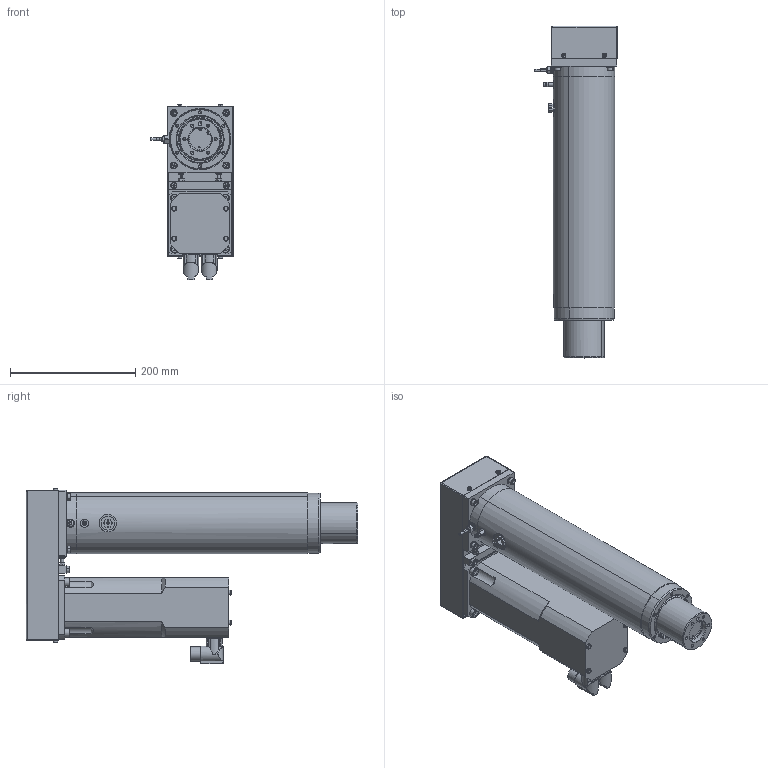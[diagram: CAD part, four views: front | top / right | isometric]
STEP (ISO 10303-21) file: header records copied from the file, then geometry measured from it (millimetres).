
FILE_DESCRIPTION (( 'STEP AP203' ), '1' );
FILE_NAME ('LN5P0100-020-030NG.STEP', '2018-01-29T08:49:04', ( '' ), ( '' ), 'SwSTEP 2.0', 'SolidWorks 2016', '' );
FILE_SCHEMA (( 'CONFIG_CONTROL_DESIGN' ));
Length unit declared in the file: millimetre
Products named in the file (1): LN5P0100-020-030NG
Bounding box: 131.35 x 531 x 280.05 mm (x, y, z)
Volume: 5174790.6 mm3; surface area: 735238.4 mm2
Topology: 38 solids, 38 shells, 1166 faces, 2696 edges, 1626 vertices
Faces by surface type: plane 462, cylinder 431, cone 217, torus 48, bspline 6, sphere 2
Entity records: 34252 total; most frequent: CARTESIAN_POINT 7414, DIRECTION 5916, ORIENTED_EDGE 5212, EDGE_CURVE 2606, AXIS2_PLACEMENT_3D 2313, VERTEX_POINT 1626, EDGE_LOOP 1400, LINE 1290
